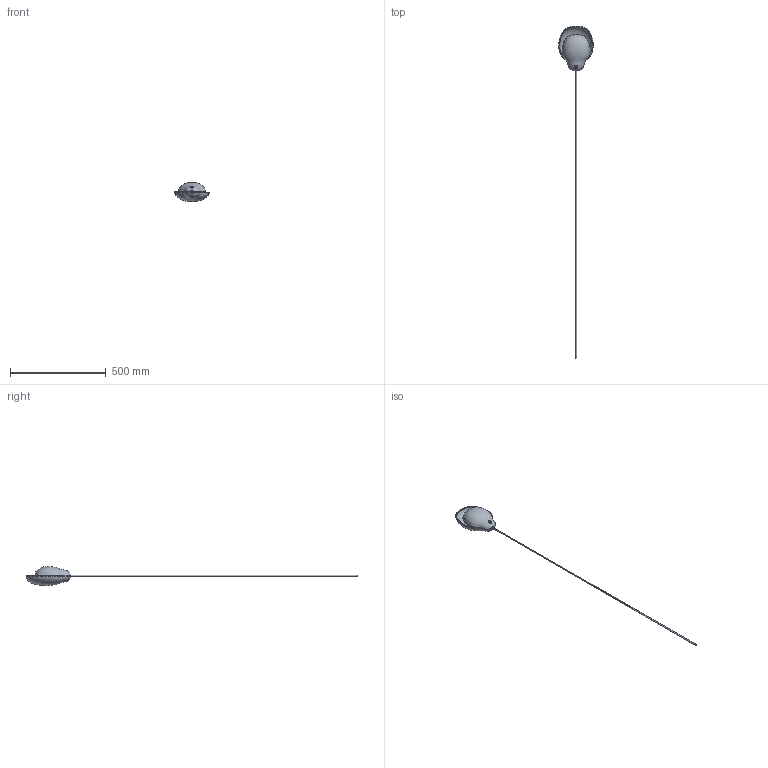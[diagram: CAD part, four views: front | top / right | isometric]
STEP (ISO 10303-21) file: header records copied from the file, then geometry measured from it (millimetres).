
FILE_DESCRIPTION (( 'STEP AP214' ), '1' );
FILE_NAME ('Petal Pendant - Small Lightweight.STEP', '2024-02-16T05:38:09', ( '' ), ( '' ), 'SwSTEP 2.0', 'SolidWorks 2017', '' );
FILE_SCHEMA (( 'AUTOMOTIVE_DESIGN' ));
Length unit declared in the file: millimetre
Products named in the file (1): Petal Pendant - Small Lightweight
Bounding box: 179.89 x 1732.98 x 99.51 mm (x, y, z)
Volume: 499321.8 mm3; surface area: 235292.1 mm2
Topology: 4 solids, 4 shells, 188 faces, 458 edges, 276 vertices
Faces by surface type: bspline 76, cylinder 42, plane 30, sphere 16, torus 14, cone 10
Entity records: 72399 total; most frequent: CARTESIAN_POINT 66557, ORIENTED_EDGE 900, DIRECTION 682, EDGE_CURVE 450, AXIS2_PLACEMENT_3D 301, VERTEX_POINT 276, EDGE_LOOP 206, FACE_OUTER_BOUND 188
